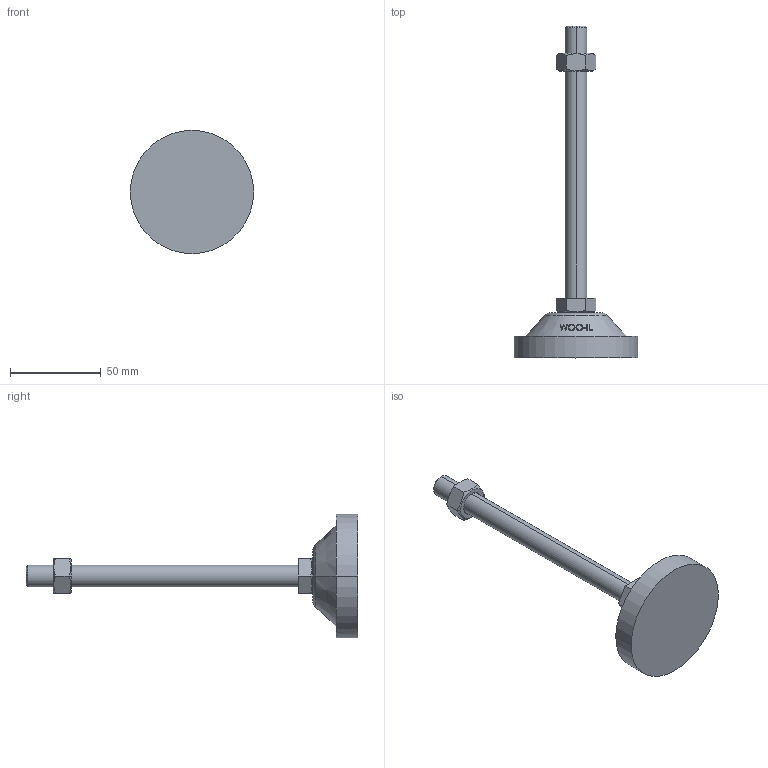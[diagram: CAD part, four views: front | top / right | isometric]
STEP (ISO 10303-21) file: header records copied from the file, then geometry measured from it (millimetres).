
FILE_DESCRIPTION (( 'STEP AP214' ), '1' );
FILE_NAME ('RL68-M12-150.step', '2021-01-06T08:16:57', ( '' ), ( '' ), 'SwSTEP 2.0', 'SolidWorks 2019', '' );
FILE_SCHEMA (( 'AUTOMOTIVE_DESIGN' ));
Length unit declared in the file: millimetre
Products named in the file (1): RL68-M12-150
Bounding box: 68 x 183 x 68 mm (x, y, z)
Volume: 84647.3 mm3; surface area: 18703.2 mm2
Topology: 3 solids, 3 shells, 93 faces, 217 edges, 140 vertices
Faces by surface type: plane 47, cone 22, bspline 16, cylinder 6, torus 2
Entity records: 4047 total; most frequent: CARTESIAN_POINT 2015, ORIENTED_EDGE 434, DIRECTION 349, EDGE_CURVE 217, VERTEX_POINT 140, AXIS2_PLACEMENT_3D 134, EDGE_LOOP 105, ADVANCED_FACE 93
